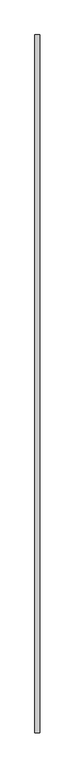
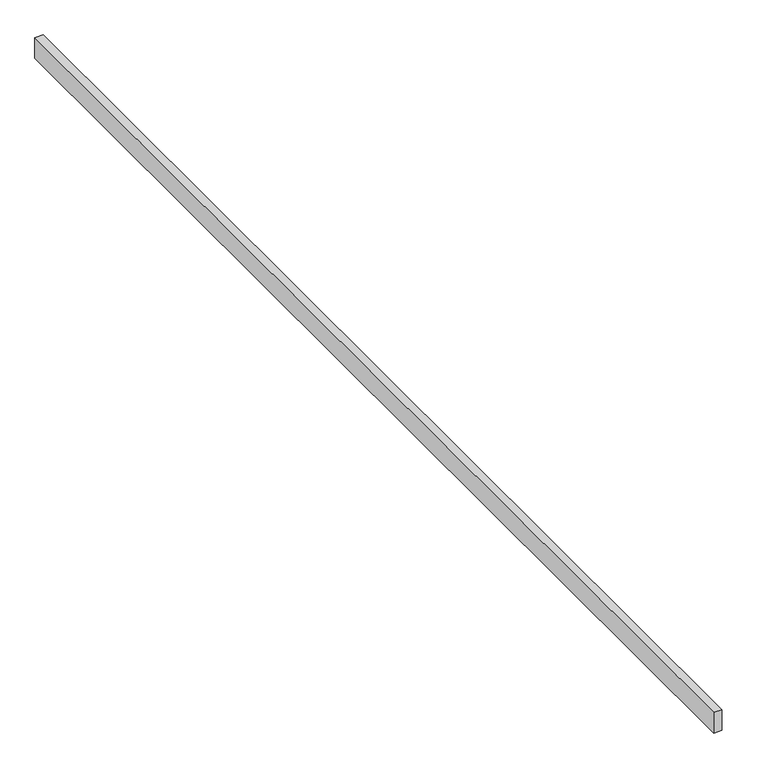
"""IFC4 building model written with IfcOpenShell, lengths in millimetres: proxy geometry, Modelos genéricos 141 : Modelos genéricos 1."""

from ifc_helpers import new_model, si_unit, frame, origin, place, context, project, spatial, polyline, outline, extrude, source, transform, mapped, element, save


def generic_models_3e61c111(model_context):
    return source(origin(), model_context, "Body", "SweptSolid", [
        extrude(outline(polyline([(12873.4472467, 6228.6238165), (12933.4472467, 6228.6238165), (12933.4472467, -2331.3761835), (12873.4472467, -2331.3761835), (12873.4472467, 6228.6238165)])), frame((0.0, 0.0, 3000.0), z_axis=(0.0, 0.0, 1.0), x_axis=(1.0, 0.0, 0.0)), (0.0, 0.0, 1.0), 160.0),
    ])


if __name__ == "__main__":
    model = new_model("IFC4")
    model_context = context("Model", 3, world=origin())
    ifc_project = project(units=[si_unit("LENGTHUNIT", "METRE", prefix="MILLI")], contexts=[model_context])
    site = spatial("IfcSite", under=ifc_project)
    building = spatial("IfcBuilding", under=site)
    placement = place(None, origin())
    generic_models_shape = generic_models_3e61c111(model_context)
    element("IfcBuildingElementProxy", 1, Name="Modelos genéricos 141 : Modelos genéricos 1", ObjectType="Modelos genéricos 141 : Modelos genéricos 1", at=placement, inside=building, context=model_context, shape_type="MappedRepresentation", body=[
        mapped(generic_models_shape, transform((0.0, 0.0, 0.0), x_axis=(1.0, 0.0, 0.0), y_axis=(0.0, 1.0, 0.0), z_axis=(0.0, 0.0, 1.0))),
    ])
    save(model, "model.ifc")
